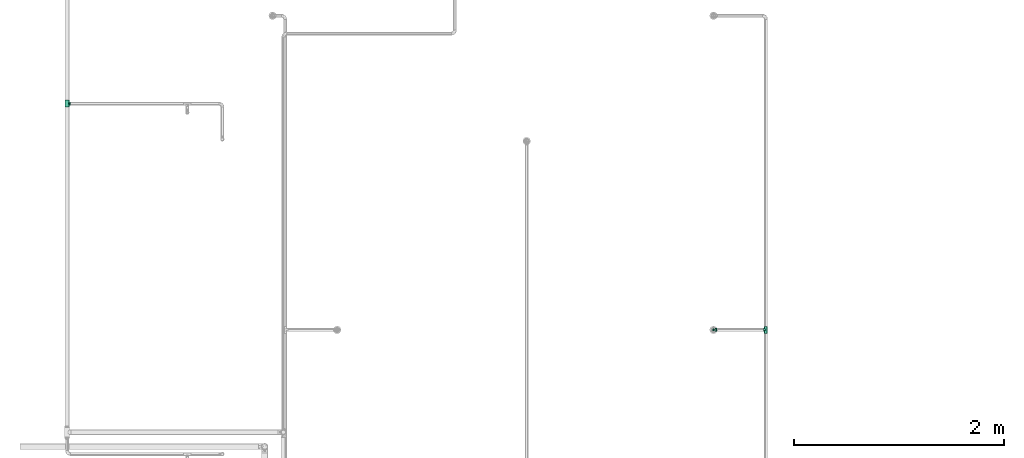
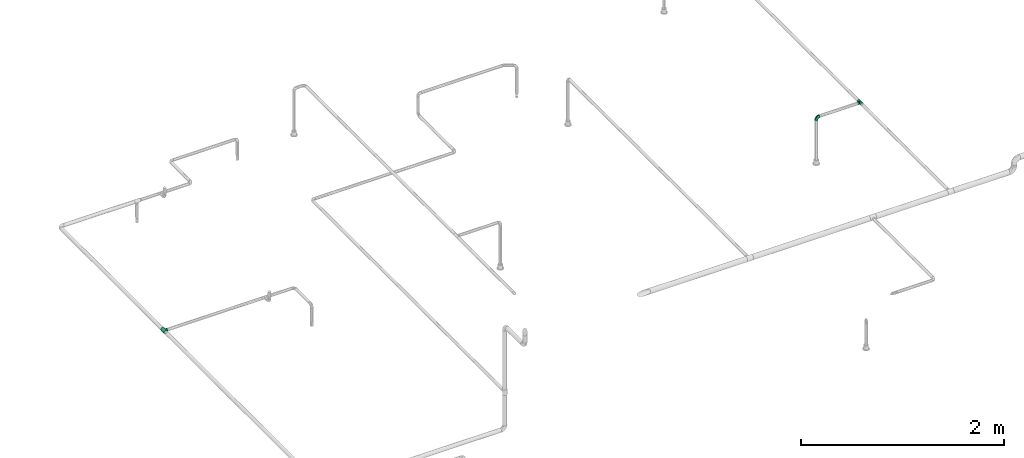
# One storey, part 64 of 95: 3 flow fittings.
"""IFC2X3 building model written with IfcOpenShell, lengths in millimetres."""

from ifc_helpers import new_model, entity, si_unit, converted_unit, derived_unit, direction, frame, origin_with_axes, place, context, subcontext, project, spatial, open_shell, surface_model, source, transform, mapped, type_object, element, save


model = new_model("IFC2X3")

# Units and contexts
model_context = context("Model", 3, precision=0.01, world=frame((0.0, 4.29681676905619e-09, 0.0)), true_north=direction((4.01073788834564e-13, 1.0)))
plan_context = context("Plan", 3, precision=0.01, world=frame((0.0, 4.29681676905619e-09, 0.0)), true_north=direction((4.01073788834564e-13, 1.0)))
body_context = subcontext(model_context, "Body", "Model", "MODEL_VIEW")
ifc_project = project(units=[converted_unit("PLANEANGLEUNIT", "DEGREE", entity("IfcPositiveLengthMeasure", 0.0174532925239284), si_unit("PLANEANGLEUNIT", "RADIAN"), dimensions=[0, 0, 0, 0, 0, 0, 0]), si_unit("AREAUNIT", "SQUARE_METRE"), si_unit("LENGTHUNIT", "METRE", prefix="MILLI"), si_unit("MASSUNIT", "GRAM", prefix="KILO"), si_unit("POWERUNIT", "WATT"), si_unit("PRESSUREUNIT", "PASCAL"), si_unit("FORCEUNIT", "NEWTON", prefix="KILO"), si_unit("ELECTRICVOLTAGEUNIT", "VOLT"), si_unit("ELECTRICCURRENTUNIT", "AMPERE"), si_unit("THERMODYNAMICTEMPERATUREUNIT", "DEGREE_CELSIUS"), si_unit("TIMEUNIT", "SECOND"), si_unit("VOLUMEUNIT", "CUBIC_METRE"), derived_unit("LINEARVELOCITYUNIT", [(si_unit("LENGTHUNIT", "METRE"), 1), (si_unit("TIMEUNIT", "SECOND"), -1)]), derived_unit("VOLUMETRICFLOWRATEUNIT", [(si_unit("VOLUMEUNIT", "CUBIC_METRE"), 1), (si_unit("TIMEUNIT", "SECOND"), -1)]), derived_unit("THERMALTRANSMITTANCEUNIT", [(si_unit("POWERUNIT", "WATT"), 1), (si_unit("THERMODYNAMICTEMPERATUREUNIT", "KELVIN"), -1), (si_unit("AREAUNIT", "SQUARE_METRE"), -1)]), derived_unit("SOUNDPRESSUREUNIT", [(si_unit("PRESSUREUNIT", "PASCAL"), 1)])], contexts=[model_context, plan_context])

# Site, building, storey
site_placement = place(None, frame((0.0, -4.29681676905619e-09, 0.0), z_axis=(0.0, 0.0, 1.0), x_axis=(1.0, 0.0, 0.0)))
site = spatial("IfcSite", under=ifc_project, at=site_placement, CompositionType="ELEMENT")
building_placement = place(site_placement, frame((0.0, 4.29681676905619e-09, 0.0), z_axis=(0.0, 0.0, 1.0), x_axis=(1.0, 0.0, 0.0)))
building = spatial("IfcBuilding", under=site, at=building_placement, Name="mc-building", CompositionType="ELEMENT")
storey_placement = place(building_placement, frame((0.0, 0.0, 210900.0), z_axis=(0.0, 0.0, 1.0), x_axis=(1.0, 0.0, 0.0)))
storey = spatial("IfcBuildingStorey", under=building, at=storey_placement, Name="Nivå F", CompositionType="ELEMENT", Elevation=210900.0)

# Flow fittings
pipe_fitting_type_1 = type_object("IfcPipeFittingType", Name="magi_pipe_fe_tee_centric_90_NOR", PredefinedType="JUNCTION")
shared_shape_1 = source(origin_with_axes(), body_context, "Body", "SurfaceModel", [
    surface_model("IfcShellBasedSurfaceModel", [(-33.8, 0.0, -21.2), (-33.8, -5.48696, -20.47763), (-33.8, 5.48696, -20.47763), (-33.8, 10.6, -18.35974), (-33.8, 14.99066, -14.99066), (-33.8, -20.47763, 5.48696), (-33.8, 18.35974, -10.6), (-33.8, 10.6, 18.35974), (-33.8, -14.99066, -14.99066), (-33.8, -18.35974, -10.6), (-33.8, -10.6, -18.35974), (-33.8, -20.47763, -5.48696), (-33.8, -21.2, 0.0), (-33.8, 18.35974, 10.6), (-33.8, 20.47763, -5.48696), (-33.8, 20.47763, 5.48696), (-33.8, 21.2, 0.0), (-33.8, 14.99066, 14.99066), (-33.8, 5.48696, 20.47763), (-33.8, 0.0, 21.2), (-33.8, -18.35974, 10.6), (-33.8, -14.99066, 14.99066), (-33.8, -10.6, 18.35974), (-33.8, -5.48696, 20.47763), (33.8, 5.48696, -20.47763), (33.8, -5.48696, -20.47763), (33.8, 0.0, -21.2), (33.8, 14.99066, -14.99066), (33.8, 10.6, -18.35974), (33.8, 18.35974, -10.6), (33.8, 20.47763, -5.48696), (33.8, -21.2, 0.0), (33.8, -10.6, -18.35974), (33.8, -18.35974, -10.6), (33.8, -14.99066, -14.99066), (33.8, -20.47763, -5.48696), (33.8, -20.47763, 5.48696), (33.8, 21.2, 0.0), (33.8, 20.47763, 5.48696), (33.8, 18.35974, 10.6), (33.8, 10.6, 18.35974), (33.8, 14.99066, 14.99066), (33.8, 0.0, 21.2), (33.8, 5.48696, 20.47763), (33.8, -14.99066, 14.99066), (33.8, -18.35974, 10.6), (33.8, -10.6, 18.35974), (33.8, -5.48696, 20.47763), (16.9, -21.2, 0.0), (15.78624, -20.32327, 6.03364), (12.81343, -18.11115, 11.01935), (8.52479, -15.37862, 14.59239), (3.07939, -13.16482, 16.61708), (-16.9, -21.2, 0.0), (-15.78686, -20.32375, 6.032), (-8.52604, -15.37932, 14.59166), (-3.0848, -13.16609, 16.61608), (-12.81602, -18.11299, 11.01634), (3.07939, -13.16482, -16.61708), (12.81343, -18.11115, -11.01935), (8.52479, -15.37862, -14.59239), (15.78624, -20.32327, -6.03364), (-3.0848, -13.16609, -16.61608), (-8.52604, -15.37932, -14.59166), (-12.81602, -18.11299, -11.01634), (-15.78686, -20.32375, -6.032), (4.37404, -31.8, -16.32415), (-16.9, -31.8, 0.0), (0.0, -31.8, -16.9), (14.63583, -31.8, -8.45), (8.45, -31.8, -14.63583), (16.32415, -31.8, -4.37404), (11.9501, -31.8, -11.9501), (-11.9501, -31.8, -11.9501), (-8.45, -31.8, -14.63583), (-4.37404, -31.8, -16.32415), (-14.63583, -31.8, -8.45), (-16.32415, -31.8, -4.37404), (16.9, -31.8, 0.0), (8.45, -31.8, 14.63583), (16.32415, -31.8, 4.37404), (14.63583, -31.8, 8.45), (-8.45, -31.8, 14.63583), (11.9501, -31.8, 11.9501), (4.37404, -31.8, 16.32415), (-16.32415, -31.8, 4.37404), (-11.9501, -31.8, 11.9501), (-14.63583, -31.8, 8.45), (0.0, -31.8, 16.9), (-4.37404, -31.8, 16.32415), (-16.34343, -20.76188, 3.016), (16.34312, -20.76163, 3.01682), (-0.00271, -13.16546, 16.61658), (16.34312, -20.76163, -3.01682), (-0.00271, -13.16546, -16.61658), (-16.34343, -20.76188, -3.016)], [open_shell([[[0, 1, 2]], [[3, 2, 4]], [[5, 2, 1]], [[4, 2, 6]], [[6, 2, 7]], [[8, 9, 10]], [[1, 10, 9]], [[9, 11, 1]], [[12, 1, 11]], [[5, 1, 12]], [[13, 14, 6]], [[13, 15, 16]], [[6, 7, 13]], [[5, 7, 2]], [[17, 13, 7]], [[18, 7, 19]], [[20, 21, 5]], [[22, 5, 21]], [[23, 19, 22]], [[7, 5, 22]], [[22, 19, 7]], [[16, 14, 13]], [[24, 25, 26]], [[27, 24, 28]], [[29, 30, 24]], [[29, 24, 27]], [[31, 24, 30]], [[32, 33, 34]], [[33, 32, 25]], [[33, 31, 35]], [[31, 33, 25]], [[25, 24, 31]], [[30, 36, 31]], [[37, 38, 39]], [[37, 39, 40]], [[37, 40, 36]], [[40, 39, 41]], [[42, 40, 43]], [[36, 44, 45]], [[44, 36, 46]], [[46, 42, 47]], [[46, 36, 40]], [[40, 42, 46]], [[37, 36, 30]], [[31, 36, 48]], [[49, 48, 36]], [[36, 45, 49]], [[45, 44, 50]], [[51, 50, 44]], [[52, 51, 44]], [[44, 46, 52]], [[45, 50, 49]], [[53, 54, 5]], [[5, 12, 53]], [[54, 20, 5]], [[55, 56, 21]], [[20, 57, 21]], [[57, 20, 54]], [[21, 57, 55]], [[56, 22, 21]], [[52, 22, 56]], [[19, 47, 42]], [[23, 46, 47]], [[18, 42, 43]], [[39, 38, 15]], [[17, 40, 41]], [[13, 41, 39]], [[43, 40, 7]], [[16, 38, 37]], [[22, 46, 23]], [[23, 47, 19]], [[18, 19, 42]], [[43, 7, 18]], [[7, 40, 17]], [[13, 17, 41]], [[15, 13, 39]], [[38, 16, 15]], [[46, 22, 52]], [[6, 30, 29]], [[14, 37, 30]], [[4, 29, 27]], [[26, 25, 1]], [[2, 28, 24]], [[0, 24, 26]], [[27, 28, 3]], [[10, 25, 32]], [[16, 37, 14]], [[14, 30, 6]], [[4, 6, 29]], [[27, 3, 4]], [[3, 28, 2]], [[0, 2, 24]], [[1, 0, 26]], [[25, 10, 1]], [[32, 58, 10]], [[34, 59, 60]], [[59, 34, 33]], [[60, 58, 34]], [[34, 58, 32]], [[35, 31, 48]], [[35, 61, 33]], [[61, 35, 48]], [[33, 61, 59]], [[62, 63, 8]], [[8, 64, 9]], [[64, 8, 63]], [[62, 8, 10]], [[65, 53, 11]], [[65, 11, 9]], [[11, 53, 12]], [[65, 9, 64]], [[58, 62, 10]], [[66, 67, 68]], [[69, 66, 70]], [[69, 71, 66]], [[69, 70, 72]], [[67, 66, 71]], [[68, 73, 74]], [[74, 75, 68]], [[76, 67, 77]], [[73, 68, 76]], [[67, 76, 68]], [[71, 78, 67]], [[79, 78, 80]], [[79, 80, 81]], [[82, 67, 79]], [[79, 81, 83]], [[82, 79, 84]], [[85, 86, 87]], [[86, 85, 82]], [[82, 88, 89]], [[85, 67, 82]], [[84, 88, 82]], [[79, 67, 78]], [[85, 90, 67]], [[57, 87, 86]], [[85, 87, 54]], [[86, 82, 55]], [[85, 54, 90]], [[90, 53, 67]], [[54, 87, 57]], [[91, 49, 80]], [[55, 89, 56]], [[55, 57, 86]], [[88, 52, 92]], [[55, 82, 89]], [[52, 88, 84]], [[79, 51, 84]], [[50, 83, 81]], [[83, 51, 79]], [[81, 80, 49]], [[83, 50, 51]], [[51, 52, 84]], [[78, 91, 80]], [[49, 50, 81]], [[91, 78, 48]], [[88, 56, 89]], [[92, 56, 88]], [[71, 93, 78]], [[59, 69, 72]], [[71, 69, 61]], [[72, 70, 60]], [[93, 48, 78]], [[61, 69, 59]], [[60, 66, 58]], [[60, 59, 72]], [[68, 62, 94]], [[60, 70, 66]], [[95, 67, 53]], [[95, 65, 77]], [[71, 61, 93]], [[75, 62, 68]], [[65, 76, 77]], [[73, 76, 64]], [[68, 58, 66]], [[75, 63, 62]], [[63, 75, 74]], [[74, 73, 63]], [[63, 73, 64]], [[64, 76, 65]], [[67, 95, 77]], [[94, 58, 68]]])]),
])
flow_fitting_1_placement = place(storey_placement, frame((520719.73241, 454760.05824, 2600.0), z_axis=(0.0, 0.0, -1.0), x_axis=(0.0, -1.0, 0.0)))
element("IfcFlowFitting", 1, at=flow_fitting_1_placement, inside=storey, type_object=pipe_fitting_type_1, Name="magi_pipe_fe_tee_centric_90_NOR", context=body_context, shape_type="MappedRepresentation", body=[
    mapped(shared_shape_1, transform((0.0, 0.0, 0.0), scale=1.0)),
])
pipe_fitting_type_2 = type_object("IfcPipeFittingType", Name="magi_pipe_fe_elbow_short_001", PredefinedType="BEND")
shared_shape_2 = source(origin_with_axes(), body_context, "Body", "SurfaceModel", [
    surface_model("IfcShellBasedSurfaceModel", [(-33.8, 8.45, -14.63583), (-33.8, 4.37404, -16.32415), (-33.8, 11.9501, -11.9501), (-33.8, -11.9501, -11.9501), (-33.8, -14.63583, -8.45), (-33.8, -8.45, -14.63583), (-33.8, 0.0, -16.9), (-33.8, -4.37404, -16.32415), (-33.8, -4.37404, 16.32415), (-33.8, 0.0, 16.9), (-33.8, -8.45, 14.63583), (-33.8, 16.32415, -4.37404), (-33.8, 14.63583, -8.45), (-33.8, -16.32415, -4.37404), (-33.8, -16.9, 0.0), (-33.8, -16.32415, 4.37404), (-33.8, 11.9501, 11.9501), (-33.8, 14.63583, 8.45), (-33.8, 16.32415, 4.37404), (-33.8, 4.37404, 16.32415), (-33.8, 8.45, 14.63583), (-33.8, -14.63583, 8.45), (-33.8, -11.9501, 11.9501), (-33.8, 16.9, 0.0), (-11.9501, 33.8, -11.9501), (0.0, 33.8, -16.9), (-4.37404, 33.8, -16.32415), (-8.45, 33.8, -14.63583), (-14.63583, 33.8, -8.45), (-16.32415, 33.8, -4.37404), (14.63583, 33.8, -8.45), (8.45, 33.8, 14.63583), (16.32415, 33.8, -4.37404), (8.45, 33.8, -14.63583), (11.9501, 33.8, -11.9501), (4.37404, 33.8, -16.32415), (16.32415, 33.8, 4.37404), (16.9, 33.8, 0.0), (-11.9501, 33.8, 11.9501), (-16.32415, 33.8, 4.37404), (-14.63583, 33.8, 8.45), (-8.45, 33.8, 14.63583), (-4.37404, 33.8, 16.32415), (11.9501, 33.8, 11.9501), (14.63583, 33.8, 8.45), (0.0, 33.8, 16.9), (4.37404, 33.8, 16.32415), (-16.9, 33.8, 0.0), (-24.79389, -13.12945, 9.48721), (-22.19287, -9.75018, 12.59315), (-24.09897, -14.97035, 0.0), (-14.93934, -10.76256, 8.5297), (-22.46095, -14.75051, 5.27077), (14.75051, 22.46094, 5.27077), (11.9251, 13.23888, 4.33236), (13.04069, 14.39795, 0.0), (7.71387, 13.68847, 11.55891), (9.75018, 22.19287, 12.59315), (4.10169, 13.0571, 14.04018), (-24.84007, -6.39063, 15.2048), (-25.81779, -2.23879, 16.61097), (-23.66549, 2.59054, 16.87119), (-26.50418, 14.06512, 11.08152), (-24.21253, 17.66365, 7.72657), (-29.58514, 15.86957, 7.00283), (-6.17382, -7.5455, 0.0), (-13.23888, -11.9251, 4.33236), (-14.39795, -13.04069, 0.0), (-17.81434, 18.87373, 11.97104), (-6.30846, 29.15138, 15.82987), (-2.31622, 25.28002, 16.85849), (-29.23923, 10.23435, 13.77053), (-1.45439, -2.85688, 7.61475), (-0.28326, 0.34872, 10.09509), (-5.74484, -4.04709, 10.4122), (-4.41137, 11.31918, 16.59407), (-8.39727, 3.10034, 15.7812), (-1.72649, 9.1306, 15.53089), (-17.39909, 24.75344, 7.64977), (-26.19233, 20.0512, 0.0), (-28.14518, 17.29657, 4.25857), (-26.05147, 6.6281, 15.96447), (-5.87354, 16.61944, 16.86968), (-12.51807, 12.51807, 16.48937), (-10.06312, 7.38516, 16.81295), (-3.01882, 3.01882, 13.81718), (-13.0571, -4.10169, 14.04018), (-16.82553, -0.15166, 16.38038), (10.76256, 14.93934, 8.5297), (13.12945, 24.79389, 9.48721), (6.39063, 24.84007, 15.2048), (2.23879, 25.81779, 16.61097), (-13.68847, -7.71387, 11.55891), (14.97035, 24.09897, 0.0), (-7.30894, 22.89991, 16.09489), (-10.67958, 26.17414, 14.008), (-12.78295, 18.26924, 15.06066), (-13.88562, 22.45231, 12.93244), (-18.04944, 15.16501, 14.04434), (-23.11658, 20.08178, 4.02986), (-21.84989, 21.84989, 0.0), (-18.55817, 25.48277, 3.93065), (-13.95142, 26.94732, 11.03289), (-18.57098, 7.23906, 16.59756), (-16.58335, 4.14122, 16.89279), (-17.96666, 11.46709, 15.63151), (-9.84453, 17.54304, 16.18938), (0.15166, 16.82553, 16.38038), (-23.27207, 11.47201, 14.23154), (3.84842, 5.86994, 10.70473), (-8.0212, -7.54413, 7.93275), (1.00345, -2.19508, 4.57414), (5.13203, 3.01004, 5.90201), (5.24161, 1.7543, 2.53265), (8.70457, 7.04947, 3.99182), (-20.0512, 26.19233, 0.0), (8.4852, 8.76699, 7.09296), (-4.55488, -6.72064, 4.90681), (2.05031, -2.05031, 0.0), (7.5455, 6.17382, 0.0), (-26.75399, 2.1369, -16.845), (-14.61995, 24.73803, -11.27736), (-28.45274, -13.45335, -9.81895), (-26.00469, 6.63555, -15.96645), (-23.06726, 20.04573, -4.26202), (-13.80647, -4.26506, -14.17873), (-14.67501, -0.21081, -16.07388), (-6.7902, -0.2828, -13.8478), (-24.53586, 11.08096, -14.13417), (-26.72048, 14.00837, -11.05776), (10.0967, 24.44989, -12.75976), (5.83237, 21.40218, -15.03047), (6.66249, 28.54238, -15.38093), (-20.38182, 15.48705, -12.74596), (12.53268, 21.23441, -9.15363), (12.54494, 15.67504, -5.54878), (9.7522, 12.89279, -8.66343), (-15.65186, 19.64213, -13.01327), (-12.03528, 20.66498, -14.67665), (-15.61907, 15.61906, -14.83879), (-25.56551, -15.26206, 0.0), (-24.65452, -15.12934, -5.50955), (13.45335, 28.45274, -9.81895), (15.12934, 24.65452, -5.50955), (-7.35442, -8.31014, -5.65563), (-15.67504, -12.54494, -5.54878), (-24.44989, -10.0967, -12.75976), (0.16522, 0.41303, -9.71728), (-5.70658, -5.33066, -8.89288), (-5.13869, -2.37198, -11.53565), (-21.23441, -12.53268, -9.15363), (0.71146, 7.93863, -14.09382), (0.21081, 14.67501, -16.07388), (3.49291, 14.42772, -14.76381), (-24.89911, -2.13088, -16.591), (-28.54238, -6.66249, -15.38093), (-18.44386, -7.71663, -13.26957), (2.13088, 24.89911, -16.591), (-28.64342, 17.44413, -2.89318), (1.70017, -1.28722, -5.09504), (-16.57067, 26.81947, -7.36596), (-17.69055, 27.4263, -3.76405), (-12.89279, -9.7522, -8.66343), (-5.96611, 5.96611, -15.95814), (-20.53709, 20.09345, -8.28985), (-2.1369, 26.75399, -16.845), (-6.89872, 24.58781, -16.02578), (-10.60739, 26.53157, -13.98044), (-21.40218, -5.83237, -15.03047), (2.93192, 5.89627, -11.55917), (6.89393, 12.61842, -11.82233), (5.58056, 5.95325, -8.79455), (-3.99512, 18.61798, -16.89635), (8.31014, 7.35442, -5.65563), (-9.1383, 9.86148, -16.89041), (-9.99983, 16.02119, -16.39699), (-16.68576, 9.78031, -16.34199), (-27.01915, 16.61158, -7.12979), (15.26206, 25.56551, 0.0), (-18.61798, 3.99512, -16.89635), (-19.37495, 27.82495, 0.0), (-12.61842, -6.89393, -11.82233), (-18.84705, 19.14018, -10.96545)], [open_shell([[[0, 1, 2]], [[3, 4, 5]], [[6, 7, 5]], [[8, 9, 10]], [[1, 6, 2]], [[11, 12, 2]], [[4, 2, 6]], [[2, 13, 10]], [[5, 4, 6]], [[2, 4, 13]], [[14, 15, 13]], [[11, 2, 16]], [[11, 17, 18]], [[11, 16, 17]], [[19, 20, 16]], [[16, 2, 10]], [[19, 16, 10]], [[21, 22, 15]], [[22, 13, 15]], [[22, 10, 13]], [[10, 9, 19]], [[11, 18, 23]], [[24, 25, 26]], [[24, 26, 27]], [[24, 28, 29]], [[25, 24, 30]], [[31, 32, 24]], [[33, 30, 34]], [[33, 35, 25]], [[25, 30, 33]], [[32, 30, 24]], [[32, 36, 37]], [[38, 24, 29]], [[39, 40, 29]], [[40, 38, 29]], [[38, 41, 42]], [[38, 31, 24]], [[31, 38, 42]], [[36, 43, 44]], [[36, 32, 43]], [[31, 45, 46]], [[32, 31, 43]], [[42, 45, 31]], [[39, 29, 47]], [[22, 48, 49]], [[15, 14, 50]], [[51, 48, 52]], [[53, 54, 55]], [[48, 22, 21]], [[15, 52, 21]], [[56, 57, 58]], [[49, 10, 22]], [[49, 59, 10]], [[9, 60, 61]], [[62, 63, 64]], [[65, 66, 67]], [[57, 43, 31]], [[62, 68, 63]], [[42, 69, 70]], [[20, 71, 16]], [[8, 60, 9]], [[72, 73, 74]], [[75, 76, 77]], [[16, 62, 17]], [[40, 39, 78]], [[79, 23, 80]], [[64, 18, 17]], [[9, 61, 19]], [[19, 81, 20]], [[82, 83, 84]], [[74, 85, 86]], [[59, 86, 87]], [[88, 89, 57]], [[90, 31, 46]], [[44, 53, 36]], [[46, 45, 91]], [[54, 53, 88]], [[44, 89, 53]], [[92, 86, 49]], [[89, 44, 43]], [[10, 59, 8]], [[53, 55, 93]], [[93, 36, 53]], [[66, 52, 67]], [[94, 82, 70]], [[95, 96, 94]], [[97, 98, 96]], [[79, 99, 100]], [[41, 38, 95]], [[101, 100, 99]], [[68, 78, 63]], [[42, 41, 69]], [[23, 18, 80]], [[95, 94, 69]], [[78, 101, 99]], [[38, 102, 95]], [[70, 45, 42]], [[97, 95, 102]], [[15, 50, 52]], [[90, 57, 31]], [[57, 90, 58]], [[81, 19, 61]], [[103, 104, 84]], [[105, 81, 103]], [[38, 40, 102]], [[106, 96, 83]], [[94, 106, 82]], [[91, 70, 107]], [[71, 62, 16]], [[62, 108, 98]], [[86, 59, 49]], [[67, 52, 50]], [[60, 59, 87]], [[92, 49, 51]], [[86, 85, 76]], [[91, 90, 46]], [[37, 36, 93]], [[107, 77, 58]], [[107, 58, 90]], [[58, 85, 109]], [[110, 74, 92]], [[72, 74, 110]], [[66, 51, 52]], [[72, 111, 112]], [[113, 114, 112]], [[56, 88, 57]], [[52, 48, 21]], [[49, 48, 51]], [[57, 89, 43]], [[53, 89, 88]], [[103, 81, 61]], [[71, 81, 108]], [[18, 64, 80]], [[63, 78, 99]], [[47, 115, 101]], [[101, 115, 100]], [[40, 78, 102]], [[68, 102, 78]], [[97, 96, 95]], [[105, 98, 108]], [[103, 84, 83]], [[107, 70, 82]], [[76, 84, 87]], [[82, 84, 75]], [[70, 91, 45]], [[90, 91, 107]], [[59, 60, 8]], [[61, 60, 87]], [[73, 85, 74]], [[109, 112, 116]], [[103, 61, 104]], [[105, 103, 83]], [[96, 105, 83]], [[81, 105, 108]], [[96, 98, 105]], [[62, 98, 68]], [[61, 87, 104]], [[87, 84, 104]], [[86, 76, 87]], [[77, 76, 85]], [[58, 77, 85]], [[75, 77, 107]], [[82, 75, 107]], [[76, 75, 84]], [[81, 71, 20]], [[62, 71, 108]], [[95, 69, 41]], [[70, 69, 94]], [[62, 64, 17]], [[80, 63, 99]], [[63, 80, 64]], [[80, 99, 79]], [[66, 65, 117]], [[110, 66, 117]], [[112, 114, 116]], [[118, 117, 65]], [[110, 92, 51]], [[112, 111, 113]], [[119, 55, 54]], [[74, 86, 92]], [[58, 109, 56]], [[116, 56, 109]], [[66, 110, 51]], [[72, 110, 117]], [[111, 72, 117]], [[73, 112, 109]], [[117, 118, 111]], [[113, 111, 118]], [[118, 119, 113]], [[114, 119, 54]], [[119, 114, 113]], [[116, 54, 88]], [[54, 116, 114]], [[116, 88, 56]], [[112, 73, 72]], [[85, 73, 109]], [[78, 39, 101]], [[47, 101, 39]], [[102, 68, 97]], [[97, 68, 98]], [[82, 106, 83]], [[94, 96, 106]], [[1, 120, 6]], [[28, 24, 121]], [[3, 122, 4]], [[0, 123, 1]], [[100, 124, 79]], [[125, 126, 127]], [[128, 2, 129]], [[130, 131, 132]], [[128, 129, 133]], [[134, 135, 136]], [[137, 138, 139]], [[128, 0, 2]], [[67, 140, 141]], [[134, 142, 143]], [[141, 13, 4]], [[144, 65, 145]], [[146, 3, 5]], [[147, 148, 149]], [[145, 141, 150]], [[151, 152, 153]], [[154, 7, 6]], [[5, 155, 146]], [[150, 146, 156]], [[155, 5, 7]], [[143, 135, 134]], [[35, 157, 25]], [[23, 79, 158]], [[148, 159, 144]], [[160, 161, 29]], [[145, 162, 144]], [[163, 152, 151]], [[29, 28, 160]], [[121, 164, 160]], [[33, 34, 130]], [[25, 165, 26]], [[26, 165, 166]], [[142, 34, 30]], [[24, 27, 167]], [[124, 161, 164]], [[157, 35, 132]], [[155, 154, 168]], [[123, 0, 128]], [[169, 170, 171]], [[172, 157, 152]], [[26, 166, 27]], [[132, 35, 33]], [[142, 130, 34]], [[168, 154, 126]], [[136, 135, 173]], [[133, 137, 139]], [[2, 12, 129]], [[170, 131, 130]], [[30, 32, 143]], [[172, 174, 175]], [[176, 123, 128]], [[158, 177, 11]], [[135, 55, 119]], [[167, 27, 166]], [[175, 166, 172]], [[137, 167, 138]], [[122, 141, 4]], [[140, 14, 13]], [[32, 37, 178]], [[170, 130, 134]], [[152, 157, 131]], [[165, 157, 172]], [[153, 170, 151]], [[152, 163, 174]], [[168, 125, 156]], [[122, 146, 150]], [[120, 154, 6]], [[179, 174, 126]], [[179, 126, 154]], [[126, 163, 127]], [[162, 145, 150]], [[140, 13, 141]], [[32, 178, 143]], [[55, 143, 178]], [[177, 129, 12]], [[128, 133, 139]], [[176, 128, 139]], [[120, 123, 179]], [[121, 160, 28]], [[161, 100, 180]], [[166, 175, 138]], [[121, 24, 167]], [[161, 47, 29]], [[79, 124, 158]], [[124, 164, 177]], [[161, 124, 100]], [[136, 171, 170]], [[127, 163, 151]], [[147, 171, 159]], [[148, 144, 162]], [[127, 151, 169]], [[127, 181, 125]], [[129, 177, 164]], [[12, 11, 177]], [[159, 65, 144]], [[67, 141, 145]], [[143, 55, 135]], [[135, 119, 173]], [[123, 120, 1]], [[154, 120, 179]], [[157, 165, 25]], [[166, 165, 172]], [[172, 152, 174]], [[176, 139, 175]], [[126, 174, 163]], [[176, 174, 179]], [[174, 176, 175]], [[123, 176, 179]], [[150, 181, 162]], [[127, 149, 181]], [[181, 148, 162]], [[159, 148, 147]], [[171, 136, 173]], [[170, 134, 136]], [[159, 171, 173]], [[171, 147, 169]], [[169, 147, 149]], [[151, 170, 169]], [[164, 182, 129]], [[182, 121, 137]], [[181, 149, 148]], [[169, 149, 127]], [[182, 137, 133]], [[167, 137, 121]], [[166, 138, 167]], [[175, 139, 138]], [[129, 182, 133]], [[121, 182, 164]], [[161, 160, 164]], [[47, 161, 180]], [[177, 158, 124]], [[23, 158, 11]], [[130, 132, 33]], [[157, 132, 131]], [[143, 142, 30]], [[130, 142, 134]], [[154, 155, 7]], [[146, 155, 168]], [[146, 122, 3]], [[141, 122, 150]], [[152, 131, 153]], [[159, 119, 118]], [[67, 145, 65]], [[170, 153, 131]], [[119, 159, 173]], [[159, 118, 65]], [[156, 125, 181]], [[126, 125, 168]], [[150, 156, 181]], [[168, 156, 146]]])]),
])
flow_fitting_2_placement = place(storey_placement, frame((526881.79186, 452603.26458, 4315.0), z_axis=(0.0, 0.999999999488, 3.1999999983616e-05), x_axis=(0.0, -3.1999999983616e-05, 0.999999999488)))
element("IfcFlowFitting", 2, at=flow_fitting_2_placement, inside=storey, type_object=pipe_fitting_type_2, Name="magi_pipe_fe_elbow_short_001", context=body_context, shape_type="MappedRepresentation", body=[
    mapped(shared_shape_2, transform((0.0, 0.0, 0.0), scale=1.0)),
])
shared_shape_3 = source(origin_with_axes(), body_context, "Body", "SurfaceModel", [
    surface_model("IfcShellBasedSurfaceModel", [(-33.8, 4.37404, -16.32415), (-33.8, 0.0, -16.9), (-33.8, 16.32415, -4.37404), (-33.8, 8.45, -14.63583), (-33.8, 11.9501, -11.9501), (-33.8, 14.63583, -8.45), (-33.8, -16.9, 0.0), (-33.8, -11.9501, -11.9501), (-33.8, -14.63583, -8.45), (-33.8, -8.45, -14.63583), (-33.8, -4.37404, -16.32415), (-33.8, -16.32415, -4.37404), (-33.8, 14.63583, 8.45), (-33.8, 16.32415, 4.37404), (-33.8, -8.45, 14.63583), (-33.8, 8.45, 14.63583), (-33.8, 11.9501, 11.9501), (-33.8, 4.37404, 16.32415), (-33.8, 0.0, 16.9), (-33.8, -11.9501, 11.9501), (-33.8, -14.63583, 8.45), (-33.8, -16.32415, 4.37404), (-33.8, -4.37404, 16.32415), (-33.8, 16.9, 0.0), (33.8, 4.37404, -16.32415), (33.8, -16.9, 0.0), (33.8, 0.0, -16.9), (33.8, 14.63583, -8.45), (33.8, 8.45, -14.63583), (33.8, 16.32415, -4.37404), (33.8, 11.9501, -11.9501), (33.8, -16.32415, 4.37404), (33.8, -8.45, -14.63583), (33.8, -4.37404, -16.32415), (33.8, -11.9501, -11.9501), (33.8, -14.63583, -8.45), (33.8, -16.32415, -4.37404), (33.8, 16.32415, 4.37404), (33.8, 8.45, 14.63583), (33.8, 14.63583, 8.45), (33.8, 11.9501, 11.9501), (33.8, -8.45, 14.63583), (33.8, 4.37404, 16.32415), (33.8, -14.63583, 8.45), (33.8, -11.9501, 11.9501), (33.8, 0.0, 16.9), (33.8, -4.37404, 16.32415), (33.8, 16.9, 0.0), (16.28698, -16.28698, 4.51047), (16.9, -16.9, 0.0), (14.62704, -14.62704, 8.4652), (9.47213, -9.47213, 13.99602), (12.26343, -12.26343, 11.62834), (-16.9, -16.9, 0.0), (-16.28698, -16.28698, 4.51047), (-14.62704, -14.62704, 8.4652), (-12.26343, -12.26343, 11.62834), (-9.47213, -9.47213, 13.99602), (-6.42894, -6.42894, 15.62942), (6.42894, -6.42894, 15.62942), (3.24522, -3.24522, 16.58549), (0.0, 0.0, 16.9), (-3.24522, -3.24522, 16.58549), (3.24522, -3.24522, -16.58549), (0.0, 0.0, -16.9), (-3.24522, -3.24522, -16.58549), (-6.42894, -6.42894, -15.62942), (6.42894, -6.42894, -15.62942), (9.47213, -9.47213, -13.99602), (12.26343, -12.26343, -11.62834), (14.62704, -14.62704, -8.4652), (16.28698, -16.28698, -4.51047), (-9.47213, -9.47213, -13.99602), (-12.26343, -12.26343, -11.62834), (-16.28698, -16.28698, -4.51047), (-14.62704, -14.62704, -8.4652), (4.37404, -25.35, -16.32415), (-16.9, -25.35, 0.0), (0.0, -25.35, -16.9), (14.63583, -25.35, -8.45), (8.45, -25.35, -14.63583), (16.32415, -25.35, -4.37404), (11.9501, -25.35, -11.9501), (-11.9501, -25.35, -11.9501), (-8.45, -25.35, -14.63583), (-4.37404, -25.35, -16.32415), (-14.63583, -25.35, -8.45), (-16.32415, -25.35, -4.37404), (16.9, -25.35, 0.0), (8.45, -25.35, 14.63583), (16.32415, -25.35, 4.37404), (14.63583, -25.35, 8.45), (-8.45, -25.35, 14.63583), (11.9501, -25.35, 11.9501), (4.37404, -25.35, 16.32415), (-16.32415, -25.35, 4.37404), (-11.9501, -25.35, 11.9501), (-14.63583, -25.35, 8.45), (0.0, -25.35, 16.9), (-4.37404, -25.35, 16.32415)], [open_shell([[[0, 1, 2]], [[3, 0, 4]], [[0, 2, 5]], [[4, 0, 5]], [[6, 2, 1]], [[7, 8, 9]], [[1, 10, 9]], [[11, 6, 8]], [[1, 9, 8]], [[1, 8, 6]], [[6, 12, 2]], [[12, 13, 2]], [[14, 12, 6]], [[12, 14, 15]], [[16, 12, 15]], [[17, 15, 18]], [[19, 14, 20]], [[21, 20, 14]], [[22, 18, 14]], [[14, 6, 21]], [[14, 18, 15]], [[23, 2, 13]], [[24, 25, 26]], [[27, 24, 28]], [[27, 29, 24]], [[27, 28, 30]], [[31, 25, 24]], [[26, 32, 33]], [[26, 34, 32]], [[35, 25, 36]], [[35, 34, 26]], [[25, 35, 26]], [[24, 29, 31]], [[29, 37, 38]], [[38, 37, 39]], [[38, 31, 29]], [[38, 39, 40]], [[41, 38, 42]], [[43, 41, 44]], [[41, 43, 31]], [[41, 45, 46]], [[41, 31, 38]], [[42, 45, 41]], [[29, 47, 37]], [[31, 43, 48]], [[25, 31, 49]], [[49, 31, 48]], [[43, 50, 48]], [[44, 41, 51]], [[50, 43, 52]], [[51, 52, 44]], [[52, 43, 44]], [[53, 54, 21]], [[53, 21, 6]], [[21, 54, 20]], [[54, 55, 20]], [[56, 57, 19]], [[19, 20, 56]], [[19, 57, 14]], [[56, 20, 55]], [[14, 57, 58]], [[51, 41, 59]], [[60, 45, 61]], [[59, 46, 60]], [[46, 59, 41]], [[60, 46, 45]], [[61, 45, 42]], [[39, 37, 13]], [[16, 38, 40]], [[12, 40, 39]], [[42, 38, 15]], [[23, 37, 47]], [[62, 61, 18]], [[62, 22, 58]], [[22, 62, 18]], [[58, 22, 14]], [[61, 17, 18]], [[42, 17, 61]], [[15, 17, 42]], [[15, 38, 16]], [[12, 16, 40]], [[13, 12, 39]], [[37, 23, 13]], [[5, 27, 30]], [[23, 47, 29]], [[30, 28, 3]], [[27, 2, 29]], [[26, 33, 63]], [[26, 64, 24]], [[64, 26, 63]], [[28, 24, 0]], [[64, 0, 24]], [[4, 30, 3]], [[2, 27, 5]], [[5, 30, 4]], [[2, 23, 29]], [[65, 66, 10]], [[1, 0, 64]], [[1, 65, 10]], [[66, 9, 10]], [[0, 3, 28]], [[1, 64, 65]], [[63, 33, 67]], [[32, 34, 68]], [[69, 68, 34]], [[35, 70, 69]], [[69, 34, 35]], [[32, 68, 67]], [[36, 25, 49]], [[36, 71, 35]], [[71, 36, 49]], [[35, 71, 70]], [[72, 9, 66]], [[72, 7, 9]], [[7, 72, 73]], [[7, 73, 8]], [[74, 53, 11]], [[75, 74, 8]], [[74, 11, 8]], [[11, 53, 6]], [[75, 8, 73]], [[32, 67, 33]], [[76, 77, 78]], [[79, 76, 80]], [[79, 81, 76]], [[79, 80, 82]], [[77, 76, 81]], [[78, 83, 84]], [[84, 85, 78]], [[86, 77, 87]], [[83, 78, 86]], [[77, 86, 78]], [[81, 88, 77]], [[89, 88, 90]], [[89, 90, 91]], [[92, 77, 89]], [[89, 91, 93]], [[92, 89, 94]], [[95, 96, 97]], [[96, 95, 92]], [[92, 98, 99]], [[95, 77, 92]], [[94, 98, 92]], [[89, 77, 88]], [[77, 95, 53]], [[54, 53, 95]], [[97, 96, 56]], [[96, 92, 57]], [[95, 97, 54]], [[58, 92, 99]], [[55, 54, 97]], [[56, 55, 97]], [[58, 57, 92]], [[98, 61, 62]], [[58, 99, 62]], [[56, 96, 57]], [[62, 99, 98]], [[94, 60, 98]], [[89, 59, 94]], [[91, 90, 48]], [[52, 93, 91]], [[93, 51, 89]], [[49, 90, 88]], [[59, 60, 94]], [[51, 59, 89]], [[49, 48, 90]], [[50, 52, 91]], [[48, 50, 91]], [[51, 93, 52]], [[98, 60, 61]], [[88, 81, 49]], [[71, 49, 81]], [[79, 82, 69]], [[82, 80, 68]], [[81, 79, 71]], [[67, 80, 76]], [[70, 71, 79]], [[69, 70, 79]], [[67, 68, 80]], [[78, 64, 63]], [[67, 76, 63]], [[69, 82, 68]], [[63, 76, 78]], [[85, 65, 78]], [[84, 66, 85]], [[86, 87, 74]], [[86, 73, 83]], [[72, 84, 83]], [[53, 87, 77]], [[66, 65, 85]], [[72, 66, 84]], [[53, 74, 87]], [[75, 73, 86]], [[74, 75, 86]], [[72, 83, 73]], [[78, 65, 64]]])]),
])
flow_fitting_3_placement = place(storey_placement, frame((527381.43724, 452603.26458, 4315.0), z_axis=(0.0, 0.0, 1.0), x_axis=(0.0, -1.0, 0.0)))
element("IfcFlowFitting", 3, at=flow_fitting_3_placement, inside=storey, type_object=pipe_fitting_type_1, Name="magi_pipe_fe_tee_centric_90_NOR", context=body_context, shape_type="MappedRepresentation", body=[
    mapped(shared_shape_3, transform((0.0, 0.0, 0.0), scale=1.0)),
])

save(model, "model.ifc")
